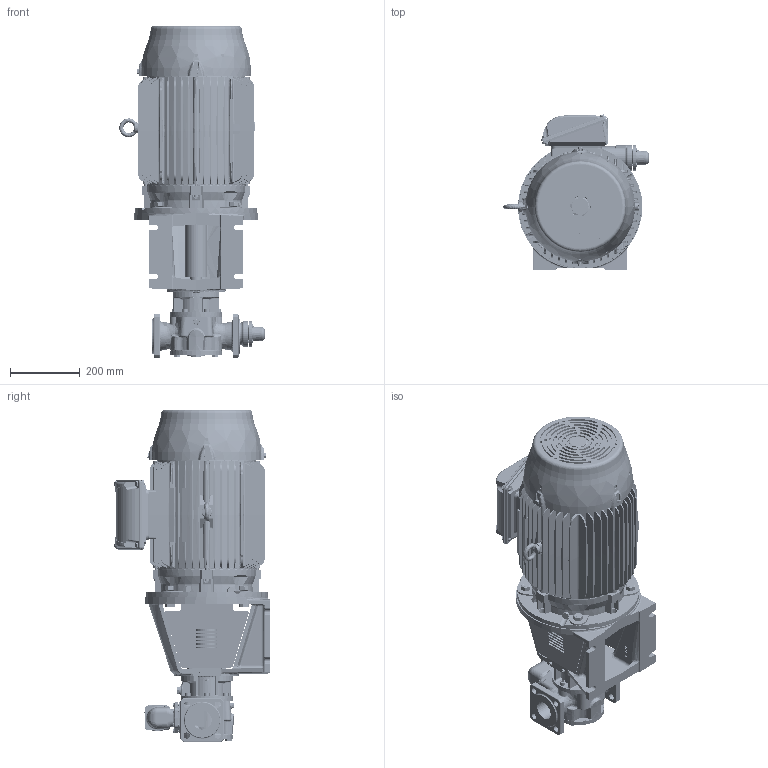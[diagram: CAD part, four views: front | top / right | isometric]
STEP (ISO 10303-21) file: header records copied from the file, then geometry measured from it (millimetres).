
FILE_DESCRIPTION(/* description */ (''),/* implementation_level */ '2;1');
FILE_NAME(/* name */ 'C:\V\JPP\Designs\GEAR PUMPS\PRODUCT ENGINEERING\EUROPE\TG BLOC\TG BLOC_15-50_G2_O_RV1-_160L-STEP.stp',/* time_stamp */ '2021-03-17T09:22:03+01:00',/* author */ ('A77THR'),/* organization */ (''),/* preprocessor_version */ 'ST-DEVELOPER v18.1',/* originating_system */ 'Autodesk Inventor 2020',/* authorisation */ '');
FILE_SCHEMA (('AUTOMOTIVE_DESIGN { 1 0 10303 214 3 1 1 }'));
Length unit declared in the file: millimetre
Products named in the file (1): TG BLOC_15-50_G2_O_RV1-_160L
Bounding box: 415.99 x 444.6 x 949.4 mm (x, y, z)
Volume: 47141957.6 mm3; surface area: 2451527.7 mm2
Topology: 1 solids, 1 shells, 5039 faces, 13136 edges, 8267 vertices
Faces by surface type: plane 1989, cylinder 1161, bspline 1080, cone 574, torus 189, sphere 46
Full cylindrical faces by diameter (mm): 4 x1, 4.5 x8, 4.917 x8, 5 x3, 5.459 x16, 6 x16, 6.647 x1, 7 x20, 7.5 x3, 8 x13, 8.376 x5, 8.5 x2, 8.7 x16, 9.188 x4, 9.4 x1, 10 x12, 10.5 x1, 11.445 x2, 11.5 x4, 11.6 x7, 12 x4, 12.5 x3, 13 x4, 14 x1, 15.011 x3, 15.4 x10, 16 x6, 17.9 x3, 18 x11, 19 x3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
Entity records: 211645 total; most frequent: CARTESIAN_POINT 91156, ORIENTED_EDGE 26060, DIRECTION 22182, EDGE_CURVE 13030, AXIS2_PLACEMENT_3D 8613, VERTEX_POINT 8267, EDGE_LOOP 5465, FACE_OUTER_BOUND 5039
